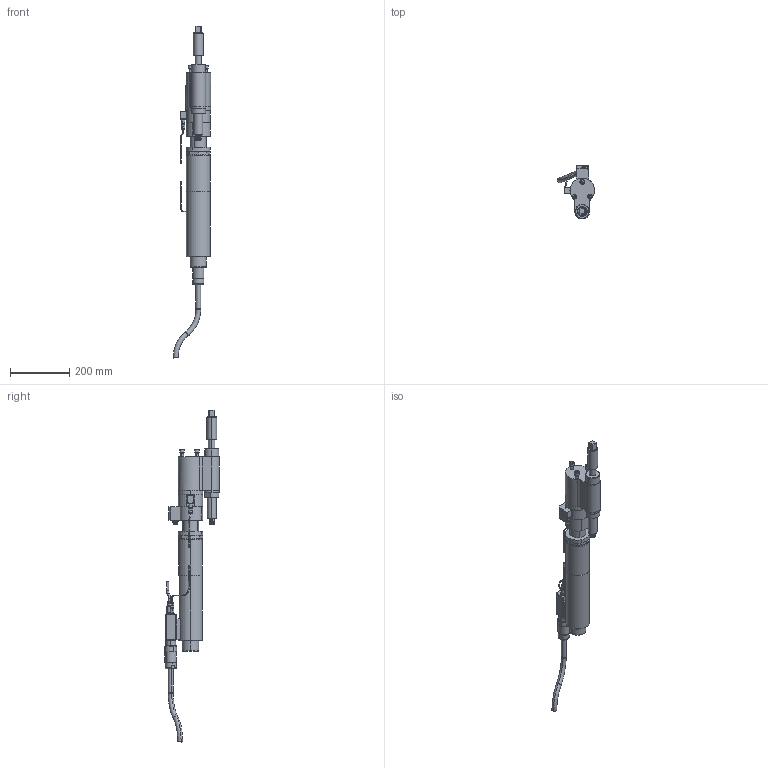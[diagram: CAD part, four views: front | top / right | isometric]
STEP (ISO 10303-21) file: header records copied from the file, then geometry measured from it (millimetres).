
FILE_DESCRIPTION(('CATIA V5 STEP'),'2;1');
FILE_NAME('O:\3D-Schrauber\stp\7920487_ECR334_DR450_W3_AOD325-450_AllCATPart.stp','2010-05-05T11:08:31+00:00',('none'),('none'),'CATIA Version 5 Release 19 SP 3 (IN-10)','CATIA V5 STEP AP214','none');
FILE_SCHEMA(('AUTOMOTIVE_DESIGN { 1 0 10303 214 1 1 1 1 }'));
Length unit declared in the file: millimetre
Products named in the file (1): 7920487_ECR334_DR450_W3_AOD325-450_AllCATPart
Bounding box: 125.32 x 182.98 x 1119.66 mm (x, y, z)
Volume: 4212775.7 mm3; surface area: 362060.4 mm2
Topology: 23 solids, 23 shells, 557 faces, 1237 edges, 775 vertices
Faces by surface type: plane 247, cylinder 196, cone 70, torus 40, bspline 4
Entity records: 14809 total; most frequent: CARTESIAN_POINT 3087, ORIENTED_EDGE 2462, DIRECTION 2011, EDGE_CURVE 1231, AXIS2_PLACEMENT_3D 1005, VERTEX_POINT 775, EDGE_LOOP 612, VECTOR 591
